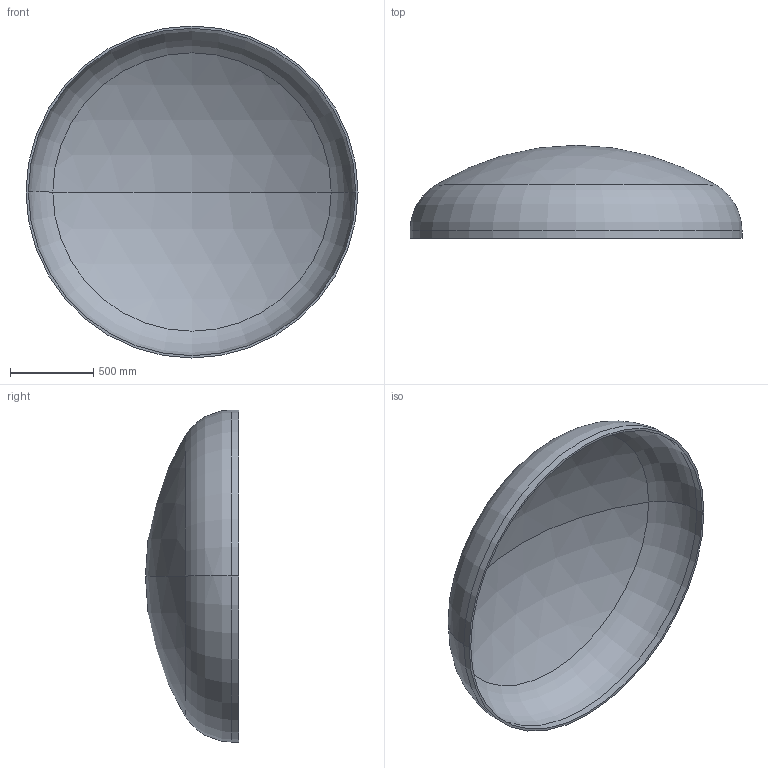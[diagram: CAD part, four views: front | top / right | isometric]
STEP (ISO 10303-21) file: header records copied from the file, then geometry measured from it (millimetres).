
FILE_DESCRIPTION (( 'STEP AP203' ), '1' );
FILE_NAME ('DIN 28013 Korbbogenform_-_Boden DIN 28013 - 2000 x 45 - I - s=14.step', '2016-07-01T13:38:00', ( '' ), ( '' ), 'SwSTEP 2.0', 'SolidWorks 2013', '' );
FILE_SCHEMA (( 'CONFIG_CONTROL_DESIGN' ));
Length unit declared in the file: millimetre
Products named in the file (1): DIN 28013 Korbbogenform_-_Boden DIN 28013 - 2000 x 45 - I - s=14
Bounding box: 2000 x 560.31 x 2000 mm (x, y, z)
Volume: 64361688.4 mm3; surface area: 9282282.8 mm2
Topology: 1 solids, 1 shells, 13 faces, 24 edges, 14 vertices
Faces by surface type: torus 4, cylinder 4, sphere 4, plane 1
Entity records: 407 total; most frequent: DIRECTION 72, CARTESIAN_POINT 52, ORIENTED_EDGE 48, AXIS2_PLACEMENT_3D 34, EDGE_CURVE 24, CIRCLE 20, EDGE_LOOP 14, VERTEX_POINT 14
